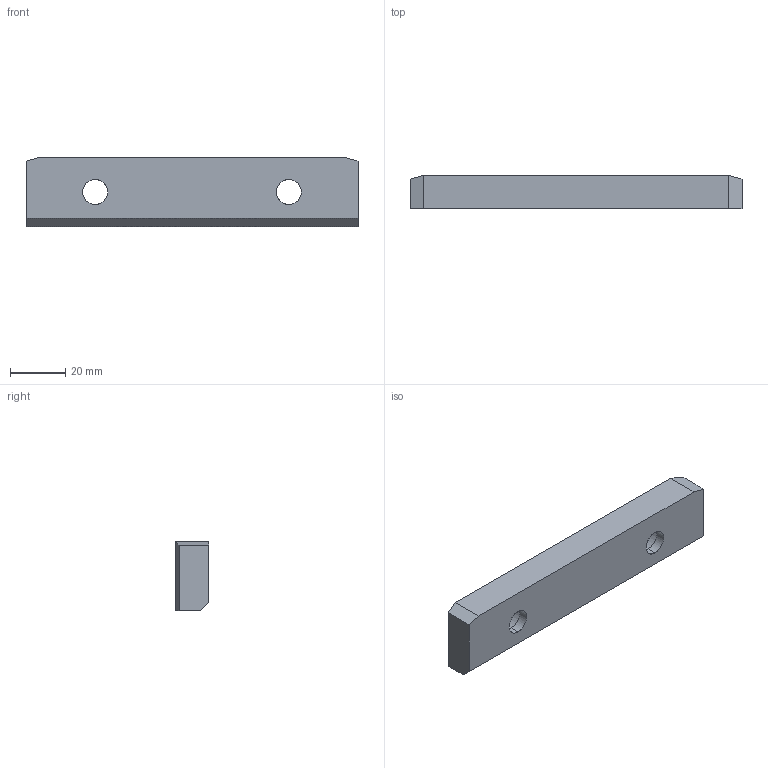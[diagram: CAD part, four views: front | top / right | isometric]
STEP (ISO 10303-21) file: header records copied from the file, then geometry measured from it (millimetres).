
FILE_DESCRIPTION(('CATIA V5 STEP Exchange'),'2;1');
FILE_NAME('C:\Users\Utente\Desktop\3D files A609\A609-012-120.stp','2020-04-13T19:48:09+00:00',('none'),('none'),'CATIA Version 5 Release 20 GA (IN-10)','CATIA V5 STEP AP203','none');
FILE_SCHEMA(('CONFIG_CONTROL_DESIGN'));
Length unit declared in the file: millimetre
Products named in the file (1): Noname
Bounding box: 120 x 12 x 25 mm (x, y, z)
Surface area: 9894.9 mm2 (no closed solid volume)
Topology: 0 solids, 17 shells, 21 faces, 90 edges, 82 vertices
Faces by surface type: extrusion 13, cylinder 8
Entity records: 1145 total; most frequent: CARTESIAN_POINT 417, ORIENTED_EDGE 98, DIRECTION 93, EDGE_CURVE 90, VERTEX_POINT 82, VECTOR 61, LINE 48, B_SPLINE_CURVE_WITH_KNOTS 39
